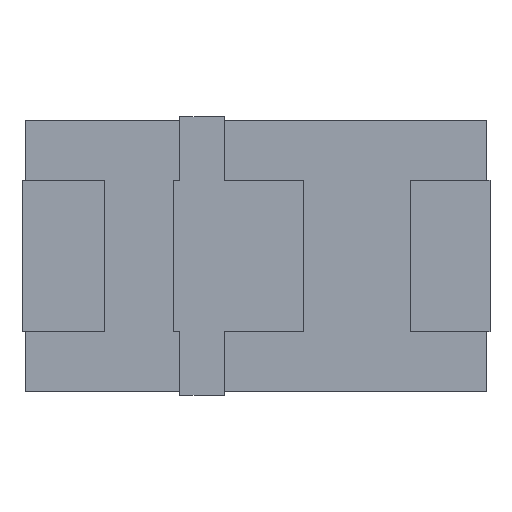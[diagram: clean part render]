
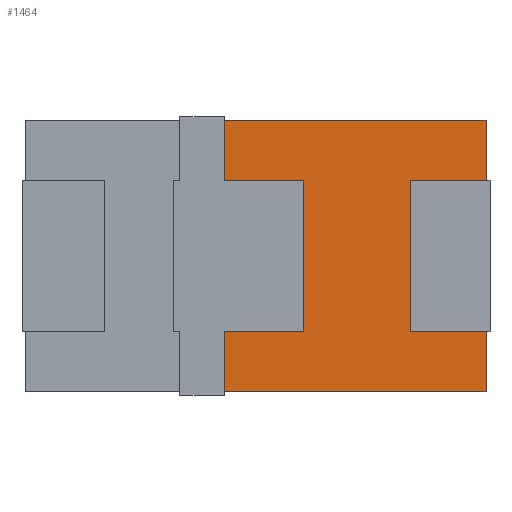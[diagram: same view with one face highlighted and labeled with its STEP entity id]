
A CAD part, front view. The second image highlights one B-rep face of the part: STEP entity #1464.
In plain terms, the highlighted planar face has unit normal (0, -1, 0).
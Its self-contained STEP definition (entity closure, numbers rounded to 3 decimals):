
#49 = CARTESIAN_POINT ( 'NONE',  ( 3.6, 0., -2.15 ) ) ;
#54 = ORIENTED_EDGE ( 'NONE', *, *, #429, .F. ) ;
#63 = DIRECTION ( 'NONE',  ( 1., 0., 0. ) ) ;
#72 = CARTESIAN_POINT ( 'NONE',  ( 3.6, 0., -2.15 ) ) ;
#83 = DIRECTION ( 'NONE',  ( -1., 0., 0. ) ) ;
#93 = LINE ( 'NONE', #72, #835 ) ;
#99 = LINE ( 'NONE', #1110, #1751 ) ;
#108 = VECTOR ( 'NONE', #1675, 1000. ) ;
#118 = ORIENTED_EDGE ( 'NONE', *, *, #1243, .F. ) ;
#127 = CARTESIAN_POINT ( 'NONE',  ( 0.707, 0., 0. ) ) ;
#169 = VECTOR ( 'NONE', #1354, 1000. ) ;
#170 = DIRECTION ( 'NONE',  ( -1., 0., 0. ) ) ;
#182 = ORIENTED_EDGE ( 'NONE', *, *, #1644, .F. ) ;
#210 = CARTESIAN_POINT ( 'NONE',  ( -0.553, 0., 2.15 ) ) ;
#213 = DIRECTION ( 'NONE',  ( 0., 0., 1. ) ) ;
#230 = VERTEX_POINT ( 'NONE', #344 ) ;
#252 = ORIENTED_EDGE ( 'NONE', *, *, #1293, .F. ) ;
#259 = LINE ( 'NONE', #548, #1411 ) ;
#271 = ORIENTED_EDGE ( 'NONE', *, *, #713, .F. ) ;
#277 = CARTESIAN_POINT ( 'NONE',  ( 3.6, 0., 2.15 ) ) ;
#328 = CARTESIAN_POINT ( 'NONE',  ( -0.553, 0., -2.15 ) ) ;
#330 = FACE_OUTER_BOUND ( 'NONE', #609, .T. ) ;
#335 = CARTESIAN_POINT ( 'NONE',  ( -0.553, 0., 0. ) ) ;
#344 = CARTESIAN_POINT ( 'NONE',  ( 3.6, 0., 1.2 ) ) ;
#362 = LINE ( 'NONE', #381, #684 ) ;
#379 = VECTOR ( 'NONE', #1639, 1000. ) ;
#381 = CARTESIAN_POINT ( 'NONE',  ( 2.391, 0., 0. ) ) ;
#429 = EDGE_CURVE ( 'NONE', #1585, #230, #93, .T. ) ;
#453 = VECTOR ( 'NONE', #170, 1000. ) ;
#459 = CARTESIAN_POINT ( 'NONE',  ( 3.6, 0., -2.15 ) ) ;
#460 = CARTESIAN_POINT ( 'NONE',  ( 0.707, 0., -1.2 ) ) ;
#472 = LINE ( 'NONE', #49, #1318 ) ;
#474 = EDGE_CURVE ( 'NONE', #1728, #1129, #259, .T. ) ;
#487 = LINE ( 'NONE', #1680, #503 ) ;
#488 = LINE ( 'NONE', #915, #379 ) ;
#489 = ORIENTED_EDGE ( 'NONE', *, *, #474, .F. ) ;
#503 = VECTOR ( 'NONE', #83, 1000. ) ;
#521 = VERTEX_POINT ( 'NONE', #557 ) ;
#545 = VERTEX_POINT ( 'NONE', #459 ) ;
#548 = CARTESIAN_POINT ( 'NONE',  ( -0.553, 0., 0. ) ) ;
#557 = CARTESIAN_POINT ( 'NONE',  ( 2.391, 0., -1.2 ) ) ;
#605 = VERTEX_POINT ( 'NONE', #1335 ) ;
#609 = EDGE_LOOP ( 'NONE', ( #929, #252, #182, #672, #118, #54, #746, #1578, #798, #1257, #271, #489 ) ) ;
#649 = DIRECTION ( 'NONE',  ( 0., 1., 0. ) ) ;
#660 = CARTESIAN_POINT ( 'NONE',  ( -0.553, 0., 1.2 ) ) ;
#672 = ORIENTED_EDGE ( 'NONE', *, *, #1370, .F. ) ;
#673 = CARTESIAN_POINT ( 'NONE',  ( -0.05, 0., -1.2 ) ) ;
#678 = EDGE_CURVE ( 'NONE', #1546, #1108, #1364, .T. ) ;
#683 = EDGE_CURVE ( 'NONE', #853, #1546, #487, .T. ) ;
#684 = VECTOR ( 'NONE', #1397, 1000. ) ;
#695 = DIRECTION ( 'NONE',  ( 0., 0., 1. ) ) ;
#713 = EDGE_CURVE ( 'NONE', #1129, #1224, #804, .T. ) ;
#746 = ORIENTED_EDGE ( 'NONE', *, *, #1829, .F. ) ;
#791 = LINE ( 'NONE', #1040, #453 ) ;
#798 = ORIENTED_EDGE ( 'NONE', *, *, #683, .F. ) ;
#799 = LINE ( 'NONE', #940, #108 ) ;
#804 = LINE ( 'NONE', #673, #169 ) ;
#822 = LINE ( 'NONE', #127, #1117 ) ;
#831 = AXIS2_PLACEMENT_3D ( 'NONE', #1820, #649, #63 ) ;
#835 = VECTOR ( 'NONE', #1245, 1000. ) ;
#853 = VERTEX_POINT ( 'NONE', #996 ) ;
#905 = EDGE_CURVE ( 'NONE', #1224, #853, #822, .T. ) ;
#915 = CARTESIAN_POINT ( 'NONE',  ( 3.6, 0., 2.15 ) ) ;
#929 = ORIENTED_EDGE ( 'NONE', *, *, #1371, .F. ) ;
#940 = CARTESIAN_POINT ( 'NONE',  ( -3.7, 0., -2.15 ) ) ;
#996 = CARTESIAN_POINT ( 'NONE',  ( 0.707, 0., 1.2 ) ) ;
#1040 = CARTESIAN_POINT ( 'NONE',  ( -0.05, 0., 1.2 ) ) ;
#1068 = PLANE ( 'NONE',  #831 ) ;
#1108 = VERTEX_POINT ( 'NONE', #210 ) ;
#1110 = CARTESIAN_POINT ( 'NONE',  ( -0.05, 0., -1.2 ) ) ;
#1117 = VECTOR ( 'NONE', #695, 1000. ) ;
#1129 = VERTEX_POINT ( 'NONE', #1409 ) ;
#1133 = DIRECTION ( 'NONE',  ( 0., 0., 1. ) ) ;
#1210 = CARTESIAN_POINT ( 'NONE',  ( 3.6, 0., -1.2 ) ) ;
#1224 = VERTEX_POINT ( 'NONE', #460 ) ;
#1243 = EDGE_CURVE ( 'NONE', #230, #605, #791, .T. ) ;
#1245 = DIRECTION ( 'NONE',  ( 0., 0., -1. ) ) ;
#1257 = ORIENTED_EDGE ( 'NONE', *, *, #905, .F. ) ;
#1264 = DIRECTION ( 'NONE',  ( 1., 0., 0. ) ) ;
#1293 = EDGE_CURVE ( 'NONE', #1334, #545, #472, .T. ) ;
#1318 = VECTOR ( 'NONE', #1809, 1000. ) ;
#1323 = VECTOR ( 'NONE', #213, 1000. ) ;
#1334 = VERTEX_POINT ( 'NONE', #1210 ) ;
#1335 = CARTESIAN_POINT ( 'NONE',  ( 2.391, 0., 1.2 ) ) ;
#1354 = DIRECTION ( 'NONE',  ( 1., 0., 0. ) ) ;
#1364 = LINE ( 'NONE', #335, #1323 ) ;
#1370 = EDGE_CURVE ( 'NONE', #605, #521, #362, .T. ) ;
#1371 = EDGE_CURVE ( 'NONE', #545, #1728, #799, .T. ) ;
#1397 = DIRECTION ( 'NONE',  ( 0., 0., -1. ) ) ;
#1409 = CARTESIAN_POINT ( 'NONE',  ( -0.553, 0., -1.2 ) ) ;
#1411 = VECTOR ( 'NONE', #1133, 1000. ) ;
#1464 = ADVANCED_FACE ( 'NONE', ( #330 ), #1068, .F. ) ;
#1546 = VERTEX_POINT ( 'NONE', #660 ) ;
#1578 = ORIENTED_EDGE ( 'NONE', *, *, #678, .F. ) ;
#1585 = VERTEX_POINT ( 'NONE', #277 ) ;
#1639 = DIRECTION ( 'NONE',  ( 1., 0., 0. ) ) ;
#1644 = EDGE_CURVE ( 'NONE', #521, #1334, #99, .T. ) ;
#1675 = DIRECTION ( 'NONE',  ( -1., 0., 0. ) ) ;
#1680 = CARTESIAN_POINT ( 'NONE',  ( -0.05, 0., 1.2 ) ) ;
#1728 = VERTEX_POINT ( 'NONE', #328 ) ;
#1751 = VECTOR ( 'NONE', #1264, 1000. ) ;
#1809 = DIRECTION ( 'NONE',  ( 0., 0., -1. ) ) ;
#1820 = CARTESIAN_POINT ( 'NONE',  ( -0.05, 0., 0. ) ) ;
#1829 = EDGE_CURVE ( 'NONE', #1108, #1585, #488, .T. ) ;
